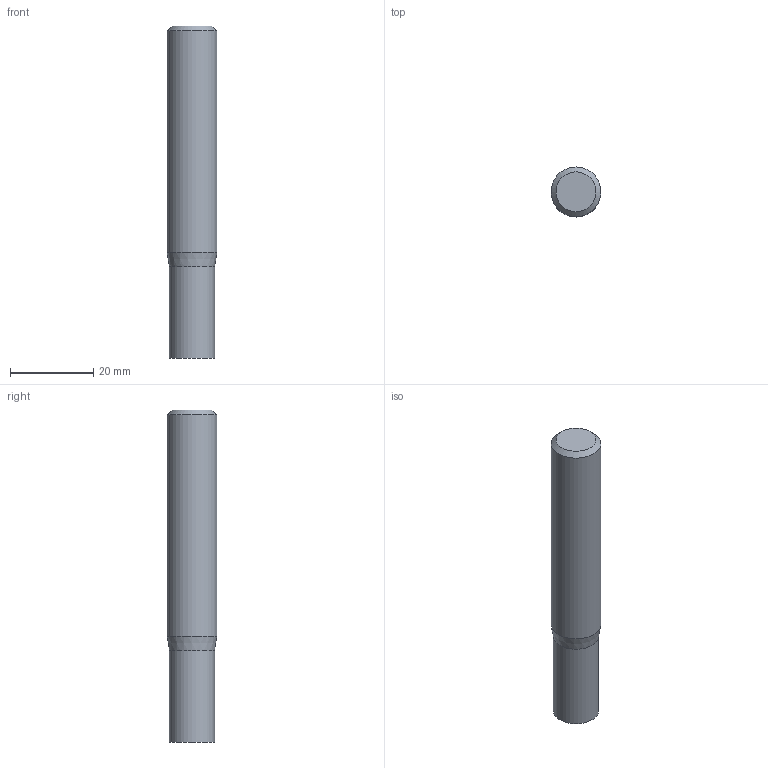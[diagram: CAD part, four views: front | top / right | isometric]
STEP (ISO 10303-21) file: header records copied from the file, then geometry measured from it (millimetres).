
FILE_DESCRIPTION((''),'2;1');
FILE_NAME('C:\Users\nsx150\AppData\Local\Temp\Mastercam 2021\98T1Q6BTT1\TEMP.step','2021-10-21T14:50:17',(''),(''),'STEP Write','Mastercam 2021 ... CNC Software, Inc.','');
FILE_SCHEMA(('AUTOMOTIVE_DESIGN'));
Length unit declared in the file: millimetre
Products named in the file (1): None
Bounding box: 12 x 12 x 80 mm (x, y, z)
Volume: 8552.3 mm3; surface area: 3300.1 mm2
Topology: 2 solids, 2 shells, 8 faces, 10 edges, 6 vertices
Faces by surface type: plane 4, cylinder 2, cone 2
Full cylindrical faces by diameter (mm): 10.9 x1, 12 x1
Entity records: 190 total; most frequent: DIRECTION 32, CARTESIAN_POINT 22, AXIS2_PLACEMENT_3D 16, ORIENTED_EDGE 12, EDGE_LOOP 12, STYLED_ITEM 11, ADVANCED_FACE 8, VERTEX_POINT 6
